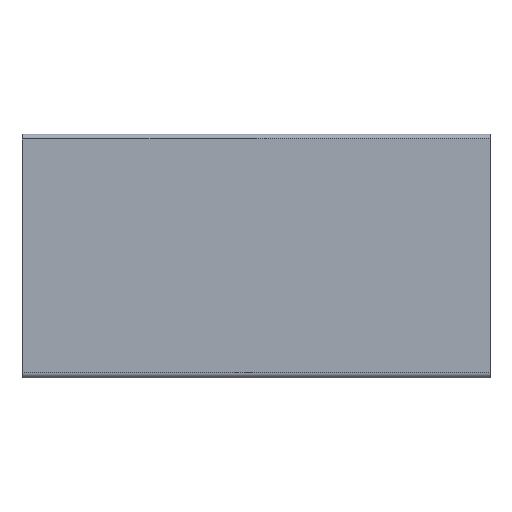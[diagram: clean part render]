
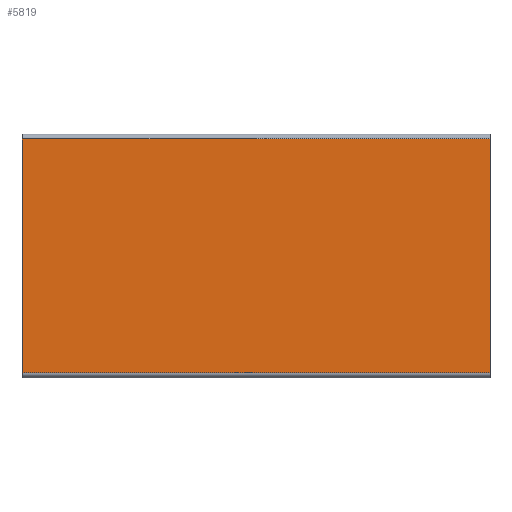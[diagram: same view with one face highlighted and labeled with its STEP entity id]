
A CAD part, front view. The second image highlights one B-rep face of the part: STEP entity #5819.
In plain terms, the highlighted planar face has unit normal (0, -1, 0).
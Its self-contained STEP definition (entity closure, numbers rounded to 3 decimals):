
#272 = CARTESIAN_POINT ( 'NONE',  ( 120., -64.5, 60. ) ) ;
#1368 = ORIENTED_EDGE ( 'NONE', *, *, #7299, .F. ) ;
#1430 = EDGE_CURVE ( 'NONE', #4951, #2613, #4344, .T. ) ;
#1440 = CARTESIAN_POINT ( 'NONE',  ( -120., -64.5, 60. ) ) ;
#1874 = LINE ( 'NONE', #4264, #3126 ) ;
#2088 = CARTESIAN_POINT ( 'NONE',  ( 120., -64.5, 60. ) ) ;
#2160 = DIRECTION ( 'NONE',  ( 0., -1., 0. ) ) ;
#2613 = VERTEX_POINT ( 'NONE', #1440 ) ;
#2844 = ORIENTED_EDGE ( 'NONE', *, *, #8125, .T. ) ;
#2860 = VECTOR ( 'NONE', #9826, 1000. ) ;
#2876 = LINE ( 'NONE', #9778, #2860 ) ;
#3036 = AXIS2_PLACEMENT_3D ( 'NONE', #7863, #2160, #8584 ) ;
#3126 = VECTOR ( 'NONE', #9220, 1000. ) ;
#3566 = VERTEX_POINT ( 'NONE', #272 ) ;
#3960 = EDGE_LOOP ( 'NONE', ( #1368, #5186, #8133, #2844 ) ) ;
#4264 = CARTESIAN_POINT ( 'NONE',  ( -120., -64.5, -60. ) ) ;
#4298 = CARTESIAN_POINT ( 'NONE',  ( -120., -64.5, -61. ) ) ;
#4344 = LINE ( 'NONE', #4298, #9581 ) ;
#4519 = DIRECTION ( 'NONE',  ( -1., 0., 0. ) ) ;
#4951 = VERTEX_POINT ( 'NONE', #6703 ) ;
#5186 = ORIENTED_EDGE ( 'NONE', *, *, #6613, .T. ) ;
#5338 = VERTEX_POINT ( 'NONE', #8195 ) ;
#5819 = ADVANCED_FACE ( 'NONE', ( #6866 ), #6138, .T. ) ;
#6138 = PLANE ( 'NONE',  #3036 ) ;
#6613 = EDGE_CURVE ( 'NONE', #3566, #2613, #9182, .T. ) ;
#6662 = DIRECTION ( 'NONE',  ( 0., 0., 1. ) ) ;
#6703 = CARTESIAN_POINT ( 'NONE',  ( -120., -64.5, -60. ) ) ;
#6866 = FACE_OUTER_BOUND ( 'NONE', #3960, .T. ) ;
#7299 = EDGE_CURVE ( 'NONE', #3566, #5338, #2876, .T. ) ;
#7863 = CARTESIAN_POINT ( 'NONE',  ( 0., -64.5, 0. ) ) ;
#8125 = EDGE_CURVE ( 'NONE', #4951, #5338, #1874, .T. ) ;
#8133 = ORIENTED_EDGE ( 'NONE', *, *, #1430, .F. ) ;
#8195 = CARTESIAN_POINT ( 'NONE',  ( 120., -64.5, -60. ) ) ;
#8584 = DIRECTION ( 'NONE',  ( 0., 0., -1. ) ) ;
#9182 = LINE ( 'NONE', #2088, #9839 ) ;
#9220 = DIRECTION ( 'NONE',  ( 1., 0., 0. ) ) ;
#9581 = VECTOR ( 'NONE', #6662, 1000. ) ;
#9778 = CARTESIAN_POINT ( 'NONE',  ( 120., -64.5, -61. ) ) ;
#9826 = DIRECTION ( 'NONE',  ( 0., 0., -1. ) ) ;
#9839 = VECTOR ( 'NONE', #4519, 1000. ) ;
